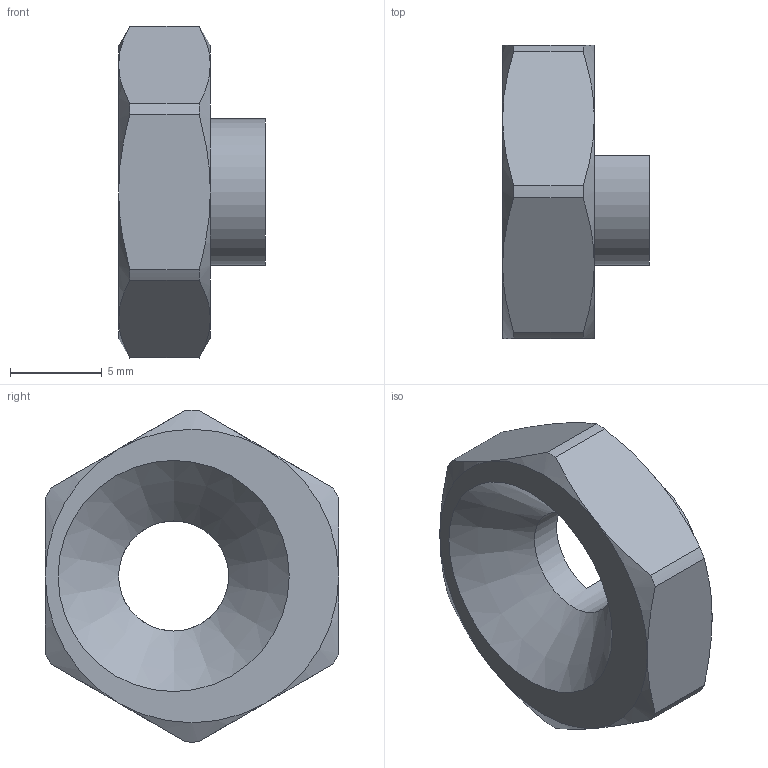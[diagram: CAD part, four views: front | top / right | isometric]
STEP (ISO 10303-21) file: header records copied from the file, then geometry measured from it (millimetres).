
FILE_DESCRIPTION(/* description */ ('STEP AP214'),/* implementation_level */ '2;1');
FILE_NAME(/* name */ 'Mounting Accessory GN 753.2-6-8-5-E-NI',/* time_stamp */ '2024-12-09T14:00:24+01:00',/* author */ ('License CC BY-ND 4.0'),/* organization */ ('CADENAS'),/* preprocessor_version */ 'ST-DEVELOPER v19.3',/* originating_system */ 'PARTsolutions',/* authorisation */ ' ');
FILE_SCHEMA (('AUTOMOTIVE_DESIGN {1 0 10303 214 3 1 1}'));
Length unit declared in the file: millimetre
Products named in the file (1): Mounting Accessory GN 753.2-6-8-5-E-NI
Bounding box: 8 x 16 x 18.1 mm (x, y, z)
Volume: 877.1 mm3; surface area: 798.9 mm2
Topology: 1 solids, 1 shells, 32 faces, 77 edges, 47 vertices
Faces by surface type: cone 13, plane 11, cylinder 8
Full cylindrical faces by diameter (mm): 6 x1
Entity records: 966 total; most frequent: CARTESIAN_POINT 225, ORIENTED_EDGE 148, DIRECTION 146, EDGE_CURVE 74, AXIS2_PLACEMENT_3D 63, VERTEX_POINT 46, EDGE_LOOP 36, FACE_BOUND 36
